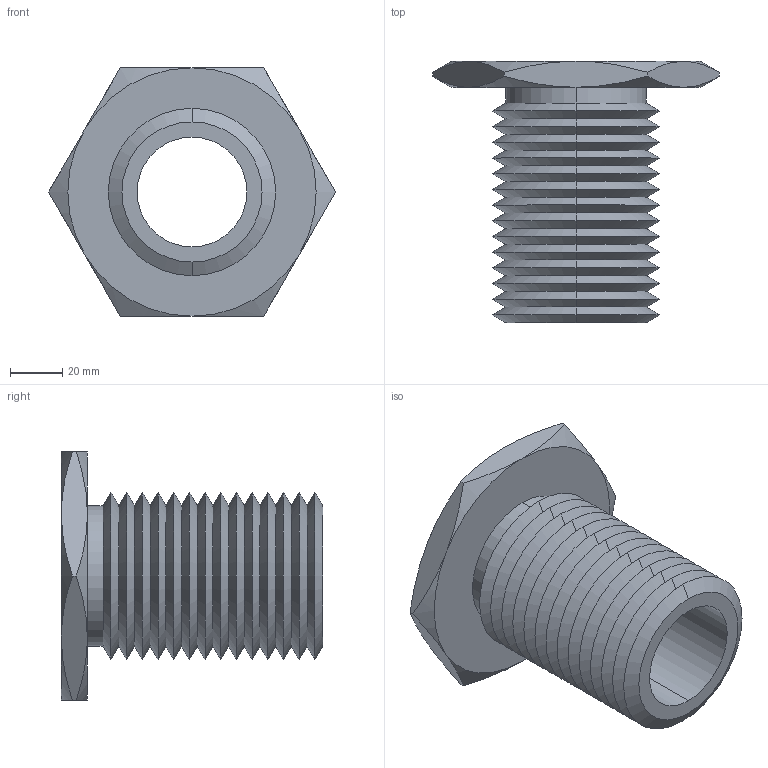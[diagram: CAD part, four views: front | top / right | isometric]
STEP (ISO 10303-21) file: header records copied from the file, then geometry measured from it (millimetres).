
FILE_DESCRIPTION (( 'STEP AP203' ), '1' );
FILE_NAME ('63302.W0064_M42x4,5.step', '2013-12-08T11:26:52', ( 'User' ), ( '' ), 'SwSTEP 2.0', 'SolidWorks 2009', '' );
FILE_SCHEMA (( 'CONFIG_CONTROL_DESIGN' ));
Length unit declared in the file: millimetre
Products named in the file (1): 63302.W0064_M42x4,5
Bounding box: 109.7 x 100 x 95 mm (x, y, z)
Volume: 178587.2 mm3; surface area: 60338.8 mm2
Topology: 1 solids, 1 shells, 83 faces, 170 edges, 90 vertices
Faces by surface type: cone 70, plane 9, cylinder 4
Entity records: 2371 total; most frequent: CARTESIAN_POINT 560, DIRECTION 392, ORIENTED_EDGE 340, EDGE_CURVE 170, AXIS2_PLACEMENT_3D 162, VERTEX_POINT 90, EDGE_LOOP 86, ADVANCED_FACE 83
